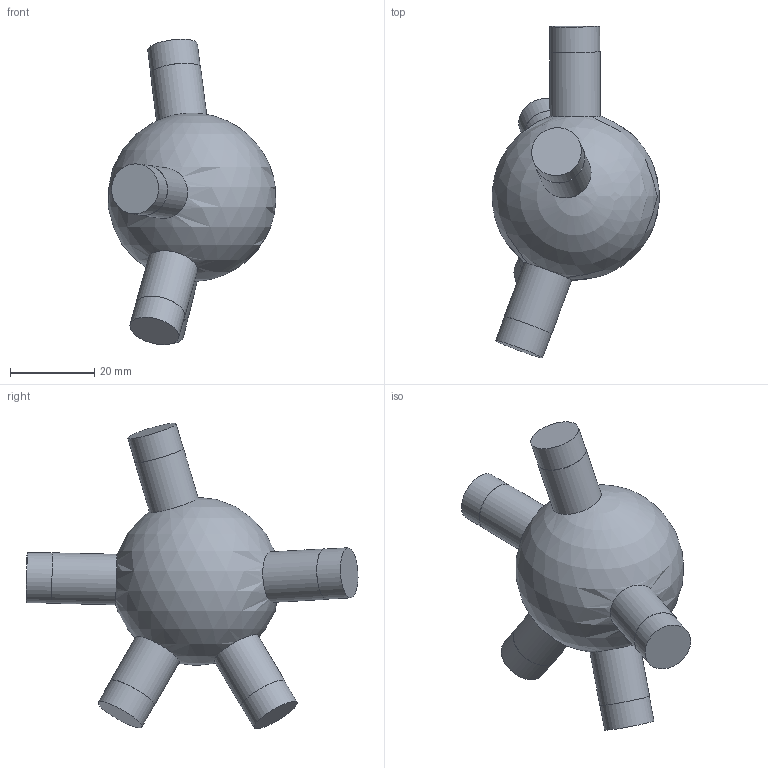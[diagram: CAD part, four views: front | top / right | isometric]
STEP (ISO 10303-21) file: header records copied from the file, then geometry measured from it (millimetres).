
FILE_DESCRIPTION(('Open CASCADE Model'),'2;1');
FILE_NAME('Open CASCADE Shape Model','2026-10-21T12:47:57',('Author'),( 'Open CASCADE'),'Open CASCADE STEP processor 7.9','Open CASCADE 7.9' ,'Unknown');
FILE_SCHEMA(('AUTOMOTIVE_DESIGN { 1 0 10303 214 1 1 1 1 }'));
Length unit declared in the file: millimetre
Products named in the file (1): Open CASCADE STEP translator 7.9 168
Bounding box: 39.82 x 78.87 x 72.57 mm (x, y, z)
Volume: 44109.1 mm3; surface area: 8643.1 mm2
Topology: 1 solids, 1 shells, 21 faces, 33 edges, 22 vertices
Faces by surface type: cylinder 10, plane 10, sphere 1
Full cylindrical faces by diameter (mm): 11.9 x5, 12 x5
Entity records: 1325 total; most frequent: CARTESIAN_POINT 600, DIRECTION 149, ORIENTED_EDGE 60, PCURVE 60, DEFINITIONAL_REPRESENTATION 60, LINE 50, VECTOR 50, AXIS2_PLACEMENT_3D 42
